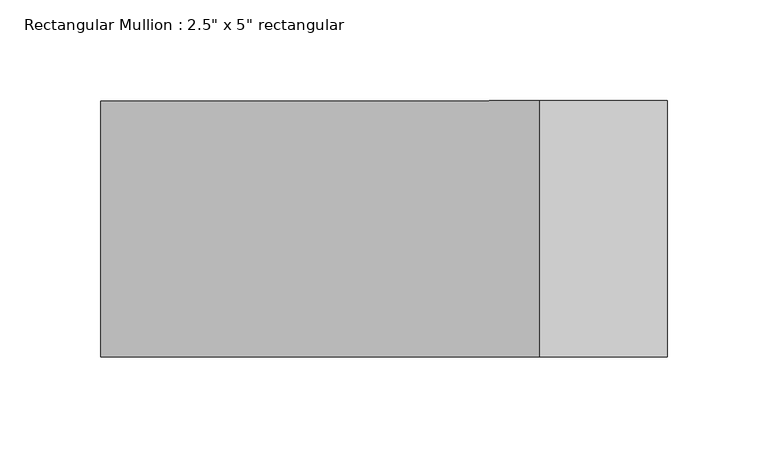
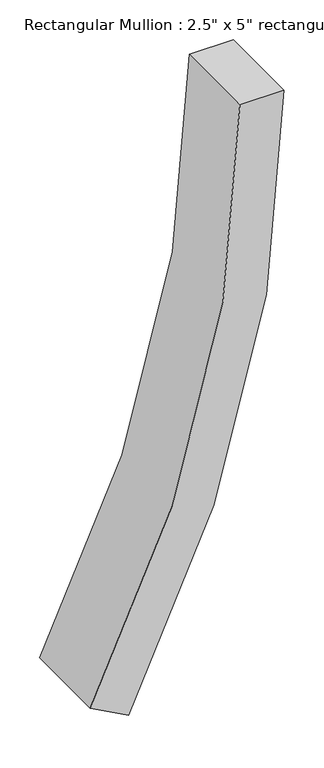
"""IFC4 building model written with IfcOpenShell, lengths in millimetres: member geometry."""

from ifc_helpers import new_model, si_unit, point, frame, frame_2d, origin, place, context, project, spatial, polyline, circle_curve, trimmed, segment, composite_curve, outline, extrude, source, transform, mapped, element, save


def member_94fbf6e3(model_context):
    return source(origin(), model_context, "Body", "SweptSolid", [
        extrude(outline(composite_curve([segment(trimmed(circle_curve(frame_2d((0.0, -1828.8)), 1828.8), [point((-878.7496411, -224.9582035))], [point((0.0, 0.0))], False, "CARTESIAN"), True, "CONTINUOUS"), segment(polyline([(0.0, 0.0), (0.0, -63.5)]), True, "CONTINUOUS"), segment(trimmed(circle_curve(frame_2d((0.0, -1828.8)), 1765.3), [point((0.0, -63.5))], [point((-848.2375008, -280.6471547))], True, "CARTESIAN"), True, "CONTINUOUS"), segment(polyline([(-848.2375008, -280.6471547), (-878.7496411, -224.9582035)]), True, "CONTINUOUS")], self_intersect=False)), frame((0.0, -63.5, 0.0), z_axis=(0.0, 1.0, 0.0), x_axis=(0.0, 0.0, 1.0)), (0.0, 0.0, 1.0), 127.0),
    ])


if __name__ == "__main__":
    model = new_model("IFC4")
    model_context = context("Model", 3, world=origin())
    ifc_project = project(units=[si_unit("LENGTHUNIT", "METRE", prefix="MILLI")], contexts=[model_context])
    site = spatial("IfcSite", under=ifc_project)
    building = spatial("IfcBuilding", under=site)
    placement = place(None, origin())
    member_shape = member_94fbf6e3(model_context)
    element("IfcMember", 1, ObjectType="Rectangular Mullion : 2.5\" x 5\" rectangular", at=placement, inside=building, context=model_context, shape_type="MappedRepresentation", body=[
        mapped(member_shape, transform((0.0, 0.0, 0.0), x_axis=(1.0, 0.0, 0.0), y_axis=(0.0, 1.0, 0.0), z_axis=(0.0, 0.0, 1.0))),
    ])
    save(model, "model.ifc")
